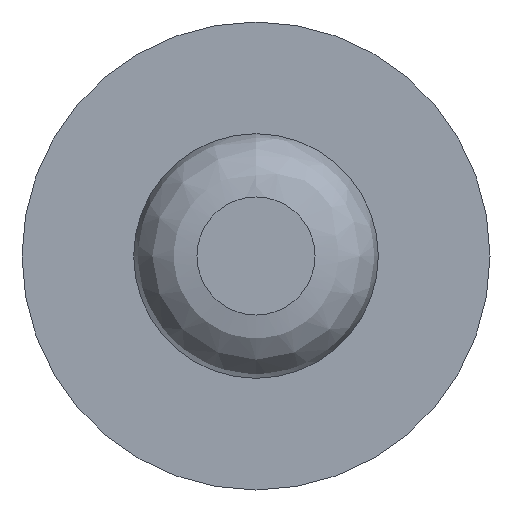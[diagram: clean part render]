
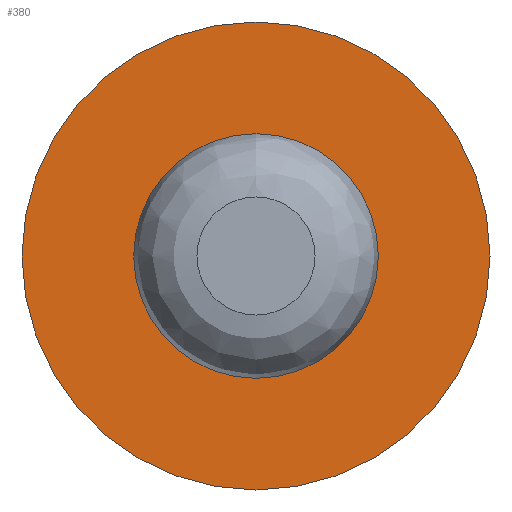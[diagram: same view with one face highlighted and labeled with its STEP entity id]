
A CAD part, front view. The second image highlights one B-rep face of the part: STEP entity #380.
In plain terms, the highlighted planar face has unit normal (0, -1, 0).
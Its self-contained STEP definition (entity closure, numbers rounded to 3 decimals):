
#16=FACE_BOUND('',#153,.T.);
#33=PLANE('',#427);
#131=FACE_OUTER_BOUND('',#152,.T.);
#152=EDGE_LOOP('',(#357,#358));
#153=EDGE_LOOP('',(#359));
#159=CIRCLE('',#401,0.967);
#166=CIRCLE('',#424,1.85);
#167=CIRCLE('',#425,1.85);
#172=VERTEX_POINT('',#572);
#202=VERTEX_POINT('',#662);
#203=VERTEX_POINT('',#664);
#210=EDGE_CURVE('',#172,#172,#159,.T.);
#254=EDGE_CURVE('',#203,#202,#166,.T.);
#255=EDGE_CURVE('',#202,#203,#167,.T.);
#357=ORIENTED_EDGE('',*,*,#254,.T.);
#358=ORIENTED_EDGE('',*,*,#255,.T.);
#359=ORIENTED_EDGE('',*,*,#210,.T.);
#380=ADVANCED_FACE('',(#131,#16),#33,.T.);
#401=AXIS2_PLACEMENT_3D('',#574,#443,#444);
#424=AXIS2_PLACEMENT_3D('',#665,#526,#527);
#425=AXIS2_PLACEMENT_3D('',#666,#528,#529);
#427=AXIS2_PLACEMENT_3D('',#668,#532,#533);
#443=DIRECTION('center_axis',(0.,1.,0.));
#444=DIRECTION('ref_axis',(1.,0.,0.));
#526=DIRECTION('center_axis',(0.,-1.,0.));
#527=DIRECTION('ref_axis',(1.,0.,0.));
#528=DIRECTION('center_axis',(0.,-1.,0.));
#529=DIRECTION('ref_axis',(1.,0.,0.));
#532=DIRECTION('center_axis',(0.,-1.,0.));
#533=DIRECTION('ref_axis',(-1.,0.,0.));
#572=CARTESIAN_POINT('',(-0.967,0.,0.));
#574=CARTESIAN_POINT('Origin',(0.,0.,0.));
#662=CARTESIAN_POINT('',(-1.85,0.,0.));
#664=CARTESIAN_POINT('',(1.85,0.,0.));
#665=CARTESIAN_POINT('Origin',(0.,0.,0.));
#666=CARTESIAN_POINT('Origin',(0.,0.,0.));
#668=CARTESIAN_POINT('Origin',(0.,0.,0.));
